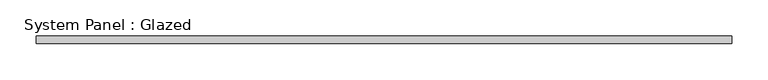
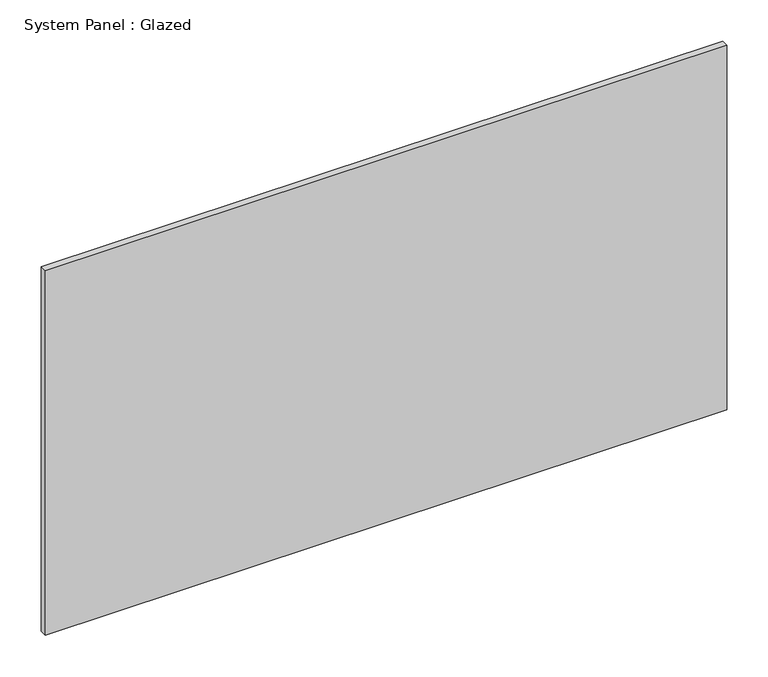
"""IFC4 building model written with IfcOpenShell, lengths in millimetres: plate geometry, System Panel : Glazed."""

from ifc_helpers import new_model, si_unit, origin, origin_with_axes, place, context, project, spatial, polyline, outline, extrude, source, transform, mapped, element, save


def system_panel_glazed_11453ee4(model_context):
    return source(origin(), model_context, "Body", "SweptSolid", [
        extrude(outline(polyline([(477.5281111, -5.0), (-477.5281111, -5.0), (-477.5281111, 5.0), (477.5281111, 5.0), (477.5281111, -5.0)])), origin_with_axes(), (0.0, 0.0, 1.0), 540.0),
    ])


if __name__ == "__main__":
    model = new_model("IFC4")
    model_context = context("Model", 3, world=origin())
    ifc_project = project(units=[si_unit("LENGTHUNIT", "METRE", prefix="MILLI")], contexts=[model_context])
    site = spatial("IfcSite", under=ifc_project)
    building = spatial("IfcBuilding", under=site)
    placement = place(None, origin())
    system_panel_glazed_shape = system_panel_glazed_11453ee4(model_context)
    element("IfcPlate", 1, ObjectType="System Panel : Glazed", at=placement, inside=building, context=model_context, shape_type="MappedRepresentation", body=[
        mapped(system_panel_glazed_shape, transform((0.0, 0.0, 0.0), x_axis=(1.0, 0.0, 0.0), y_axis=(0.0, 1.0, 0.0), z_axis=(0.0, 0.0, 1.0))),
    ])
    save(model, "model.ifc")
